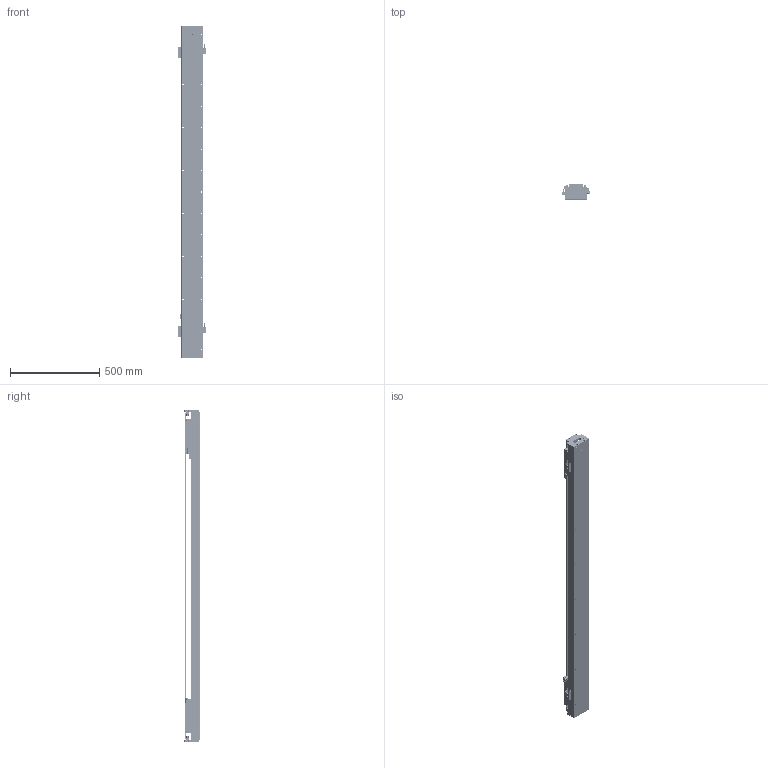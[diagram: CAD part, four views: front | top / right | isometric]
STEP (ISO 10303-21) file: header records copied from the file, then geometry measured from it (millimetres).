
FILE_DESCRIPTION (( 'STEP AP203' ), '1' );
FILE_NAME ('DKW120-2×B2-W060（T1340-L005-0.2）.STEP', '2021-09-22T05:50:08', ( '微软用户' ), ( '微软中国' ), 'SwSTEP 2.0', 'SolidWorks 2018', '' );
FILE_SCHEMA (( 'CONFIG_CONTROL_DESIGN' ));
Length unit declared in the file: millimetre
Products named in the file (24): DKW120-B15-T300-DZ-00 菁釱; DKW119-RU-DTJ-00 RU2黍杅芛盓殤; DKW120 单轴模组-拉钢带组件; MSB15-DG-U; B2-W060; BKMA01-W060-TRL280; 06652-0001-001-00 DKW120傷啣; EE_SX674A; RUS嫖掑喜; 06652-0001-004-00 DKW120嶺輸菜輸; DKW-DG-XJ-Z-00 笢潔滅袉砎蝶; Ru2; DKW-HXJ-JY-00 遣喳砎蝶; DKW-GYP-ZJ-00 笢潔嫖萇覜茼え; RUS嫖掑郪璃; 10940-0001-004-00 120詩湍裔啣; DKW-KGZ-ZJ-00 中间光电开关支架; 10980-0001-003-00 嫖萇羲壽嘐隅釱; 砎蝶猾沭; DKW120-2×B2-W060（T1340-L005-0.2）; DKW-SG-GYP-H-00 嫖萇覜茼え; 12160-0000-003-00 DKW120詩湍嶺輸; B2-W060_00; 12160-0000-004-00  DKW120詩湍揤輸
Assembly tree (41 placements, depth 3):
  DKW120-2×B2-W060（T1340-L005-0.2）
    DKW120-B15-T300-DZ-00 菁釱
    MSB15-DG-U  x2
    DKW120 单轴模组-拉钢带组件
      06652-0001-001-00 DKW120傷啣  x2
      06652-0001-004-00 DKW120嶺輸菜輸  x4
      DKW-HXJ-JY-00 遣喳砎蝶  x4
      10940-0001-004-00 120詩湍裔啣
      砎蝶猾沭  x2
      12160-0000-003-00 DKW120詩湍嶺輸  x2
      12160-0000-004-00  DKW120詩湍揤輸  x2
    BKMA01-W060-TRL280
    RUS嫖掑郪璃
      RUS嫖掑喜
      Ru2
    10980-0001-003-00 嫖萇羲壽嘐隅釱  x2
    B2-W060  x2
      DKW-SG-GYP-H-00 嫖萇覜茼え
      B2-W060_00
      DKW119-RU-DTJ-00 RU2黍杅芛盓殤
    EE_SX674A  x5
    Ru2
    DKW-DG-XJ-Z-00 笢潔滅袉砎蝶
    DKW-GYP-ZJ-00 笢潔嫖萇覜茼え
    DKW-KGZ-ZJ-00 中间光电开关支架
Bounding box: 154.1 x 84 x 1856 mm (x, y, z)
Volume: 7117003.5 mm3; surface area: 2733728.9 mm2
Topology: 60 solids, 158 shells, 6412 faces, 17362 edges, 11179 vertices
Faces by surface type: plane 3546, cylinder 1884, bspline 494, cone 488
Entity records: 139600 total; most frequent: CARTESIAN_POINT 48116, ORIENTED_EDGE 18873, DIRECTION 17564, EDGE_CURVE 9477, VERTEX_POINT 6217, AXIS2_PLACEMENT_3D 5864, LINE 5836, VECTOR 5836
